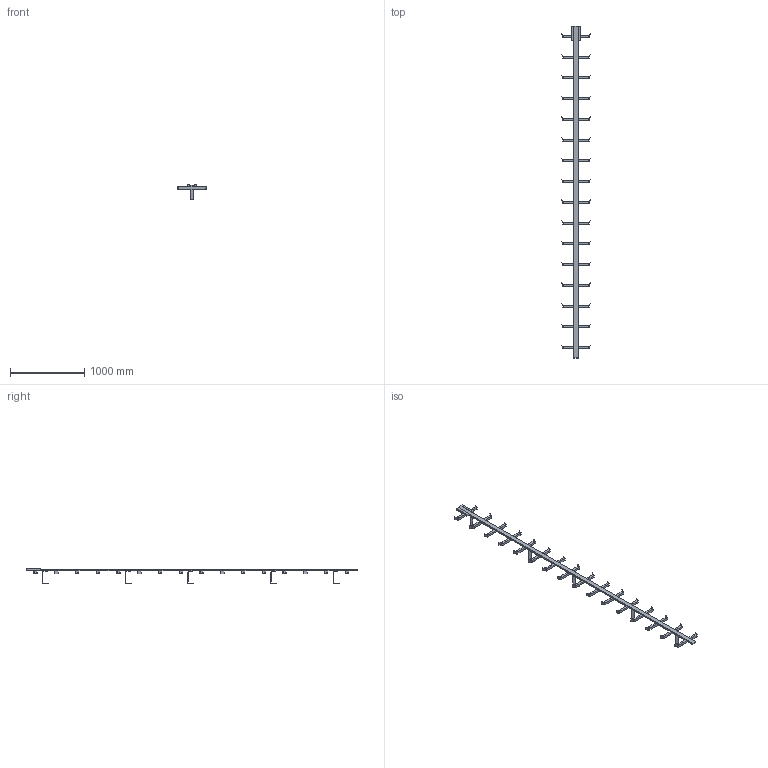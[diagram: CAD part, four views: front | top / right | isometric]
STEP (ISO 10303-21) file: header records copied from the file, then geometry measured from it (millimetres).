
FILE_DESCRIPTION((''),'2;1');
FILE_NAME('017_000114','2017-08-01T',('set'),('HUBER SE'),'PRO/ENGINEER BY PARAMETRIC TECHNOLOGY CORPORATION, 2015280','PRO/ENGINEER BY PARAMETRIC TECHNOLOGY CORPORATION, 2015280','');
FILE_SCHEMA(('CONFIG_CONTROL_DESIGN'));
Length unit declared in the file: millimetre
Products named in the file (1): 017_000114
Bounding box: 394 x 4480 x 195 mm (x, y, z)
Volume: 11995928.7 mm3; surface area: 1645392.9 mm2
Topology: 1 solids, 1 shells, 443 faces, 1343 edges, 907 vertices
Faces by surface type: plane 443
Entity records: 14530 total; most frequent: CARTESIAN_POINT 2734, ORIENTED_EDGE 2484, DIRECTION 2184, VECTOR 1296, LINE 1296, EDGE_CURVE 1242, VERTEX_POINT 806, EDGE_LOOP 448
